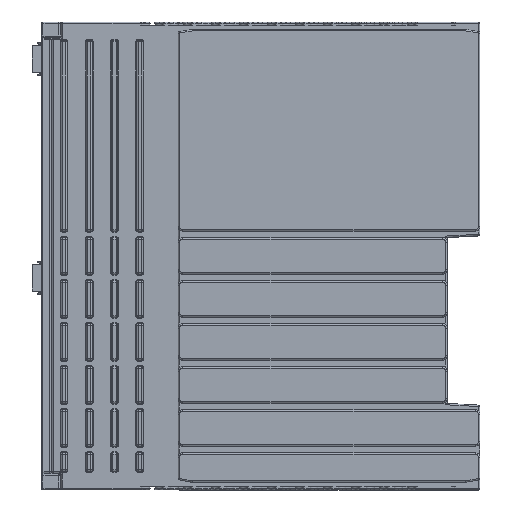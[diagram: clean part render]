
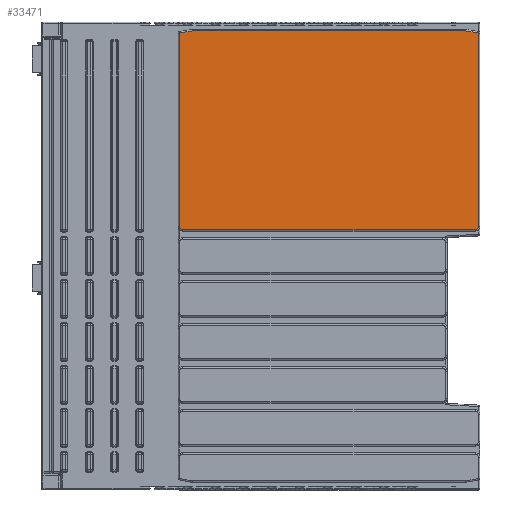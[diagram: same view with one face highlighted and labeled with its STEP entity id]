
A CAD part, top view. The second image highlights one B-rep face of the part: STEP entity #33471.
In plain terms, the highlighted planar face has unit normal (0, 0, 1).
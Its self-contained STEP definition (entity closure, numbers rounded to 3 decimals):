
#4053=FACE_OUTER_BOUND('',#6230,.T.);
#6230=EDGE_LOOP('',(#30551,#30552,#30553,#30554,#30555,#30556,#30557,#30558));
#8393=CIRCLE('',#37802,0.7);
#8397=CIRCLE('',#37808,0.7);
#10961=LINE('',#58860,#13542);
#10962=LINE('',#58866,#13543);
#10963=LINE('',#58871,#13544);
#10964=LINE('',#58877,#13545);
#10966=LINE('',#58890,#13547);
#10967=LINE('',#58898,#13548);
#13542=VECTOR('',#48928,10.);
#13543=VECTOR('',#48937,10.);
#13544=VECTOR('',#48944,10.);
#13545=VECTOR('',#48953,10.);
#13547=VECTOR('',#48969,10.);
#13548=VECTOR('',#48982,10.);
#16282=VERTEX_POINT('',#58857);
#16283=VERTEX_POINT('',#58859);
#16284=VERTEX_POINT('',#58863);
#16285=VERTEX_POINT('',#58870);
#16286=VERTEX_POINT('',#58876);
#16287=VERTEX_POINT('',#58880);
#16289=VERTEX_POINT('',#58886);
#16291=VERTEX_POINT('',#58892);
#21059=EDGE_CURVE('',#16282,#16283,#10961,.T.);
#21063=EDGE_CURVE('',#16283,#16284,#10962,.T.);
#21065=EDGE_CURVE('',#16284,#16285,#10963,.T.);
#21068=EDGE_CURVE('',#16285,#16286,#10964,.T.);
#21072=EDGE_CURVE('',#16286,#16287,#8393,.T.);
#21075=EDGE_CURVE('',#16287,#16289,#10966,.T.);
#21078=EDGE_CURVE('',#16289,#16291,#8397,.T.);
#21080=EDGE_CURVE('',#16291,#16282,#10967,.T.);
#30551=ORIENTED_EDGE('',*,*,#21059,.F.);
#30552=ORIENTED_EDGE('',*,*,#21080,.F.);
#30553=ORIENTED_EDGE('',*,*,#21078,.F.);
#30554=ORIENTED_EDGE('',*,*,#21075,.F.);
#30555=ORIENTED_EDGE('',*,*,#21072,.F.);
#30556=ORIENTED_EDGE('',*,*,#21068,.F.);
#30557=ORIENTED_EDGE('',*,*,#21065,.F.);
#30558=ORIENTED_EDGE('',*,*,#21063,.F.);
#31355=PLANE('',#37813);
#33471=ADVANCED_FACE('',(#4053),#31355,.T.);
#37802=AXIS2_PLACEMENT_3D('',#58884,#48962,#48963);
#37808=AXIS2_PLACEMENT_3D('',#58895,#48976,#48977);
#37813=AXIS2_PLACEMENT_3D('',#58901,#48987,#48988);
#48928=DIRECTION('',(0.985,0.174,0.));
#48937=DIRECTION('',(1.,0.,0.));
#48944=DIRECTION('',(0.985,-0.174,0.));
#48953=DIRECTION('',(0.,-1.,0.));
#48962=DIRECTION('center_axis',(0.,0.,-1.));
#48963=DIRECTION('ref_axis',(0.707,-0.707,0.));
#48969=DIRECTION('',(-1.,0.,0.));
#48976=DIRECTION('center_axis',(0.,0.,-1.));
#48977=DIRECTION('ref_axis',(-0.707,-0.707,0.));
#48982=DIRECTION('',(0.,1.,0.));
#48987=DIRECTION('center_axis',(0.,0.,1.));
#48988=DIRECTION('ref_axis',(0.,-1.,0.));
#58857=CARTESIAN_POINT('',(-57.2,61.419,29.));
#58859=CARTESIAN_POINT('',(-54.474,61.9,29.));
#58860=CARTESIAN_POINT('',(-28.77,66.432,29.));
#58863=CARTESIAN_POINT('',(3.974,61.9,29.));
#58866=CARTESIAN_POINT('',(0.,61.9,29.));
#58870=CARTESIAN_POINT('',(6.7,61.419,29.));
#58871=CARTESIAN_POINT('',(2.758,62.114,29.));
#58876=CARTESIAN_POINT('',(6.7,20.1,29.));
#58877=CARTESIAN_POINT('',(6.7,38.,29.));
#58880=CARTESIAN_POINT('',(6.,19.4,29.));
#58884=CARTESIAN_POINT('Origin',(6.,20.1,29.));
#58886=CARTESIAN_POINT('',(-56.5,19.4,29.));
#58890=CARTESIAN_POINT('',(-28.75,19.4,29.));
#58892=CARTESIAN_POINT('',(-57.2,20.1,29.));
#58895=CARTESIAN_POINT('Origin',(-56.5,20.1,29.));
#58898=CARTESIAN_POINT('',(-57.2,38.,29.));
#58901=CARTESIAN_POINT('Origin',(0.,62.2,29.));
